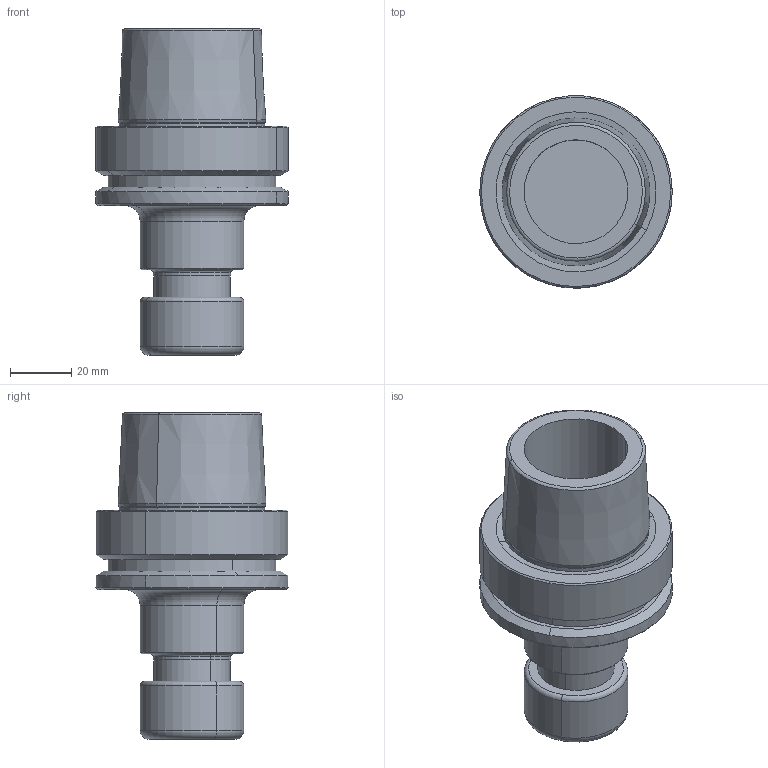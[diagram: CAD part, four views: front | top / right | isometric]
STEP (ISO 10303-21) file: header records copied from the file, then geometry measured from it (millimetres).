
FILE_DESCRIPTION(('CATIA V5 STEP','CAx-IF Rec.Pracs.--- Model Styling and Organization---1.2---2011-12-15'),'2;1');
FILE_NAME('\\nas01\drv1\utils\eitdev\rte\eit\transmagicconvert\db\out\635936238022237962\4506256-D-L-B.stp','2016-03-15T05:30:16+00:00',('none'),('none'),'CATIA Version 5 Release 21 SP 5 (IN-10)','CATIA V5 STEP AP214','none');
FILE_SCHEMA(('AUTOMOTIVE_DESIGN { 1 0 10303 214 1 1 1 1 }'));
Length unit declared in the file: millimetre
Products named in the file (1): HSK E 63 ER20X 75
Bounding box: 63 x 62.98 x 107 mm (x, y, z)
Volume: 126095.9 mm3; surface area: 28808 mm2
Topology: 1 solids, 1 shells, 68 faces, 142 edges, 83 vertices
Faces by surface type: cylinder 24, cone 20, torus 14, plane 10
Entity records: 1602 total; most frequent: ORIENTED_EDGE 280, CARTESIAN_POINT 265, DIRECTION 222, EDGE_CURVE 140, AXIS2_PLACEMENT_3D 138, CIRCLE 96, VERTEX_POINT 83, EDGE_LOOP 77
